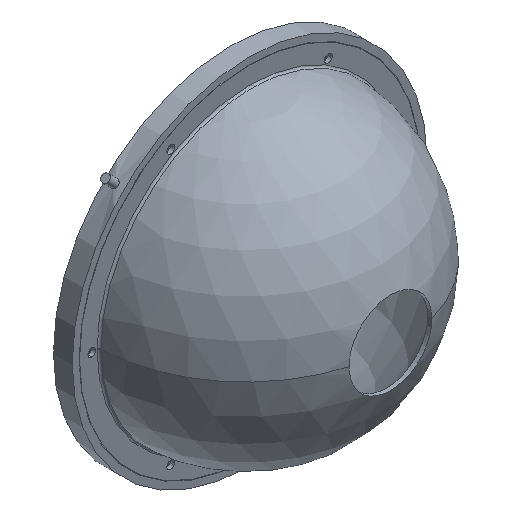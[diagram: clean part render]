
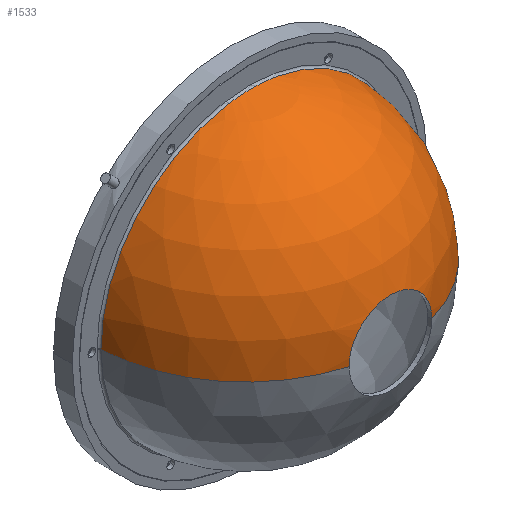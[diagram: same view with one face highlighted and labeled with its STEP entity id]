
A CAD part, isometric view. The second image highlights one B-rep face of the part: STEP entity #1533.
In plain terms, the highlighted spherical face has radius 76.441 mm.
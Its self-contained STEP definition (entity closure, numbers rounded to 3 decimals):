
#40 = CIRCLE ( 'NONE', #1221, 76.441 ) ;
#72 = FACE_OUTER_BOUND ( 'NONE', #1466, .T. ) ;
#127 = SPHERICAL_SURFACE ( 'NONE', #1112, 76.441 ) ;
#139 = ORIENTED_EDGE ( 'NONE', *, *, #205, .T. ) ;
#161 = ORIENTED_EDGE ( 'NONE', *, *, #1825, .F. ) ;
#205 = EDGE_CURVE ( 'NONE', #965, #1214, #278, .T. ) ;
#217 = VERTEX_POINT ( 'NONE', #861 ) ;
#278 = CIRCLE ( 'NONE', #1923, 21. ) ;
#357 = DIRECTION ( 'NONE',  ( 1., 0., 0. ) ) ;
#399 = DIRECTION ( 'NONE',  ( 0., 1., 0. ) ) ;
#484 = DIRECTION ( 'NONE',  ( -1., 0., 0. ) ) ;
#672 = VERTEX_POINT ( 'NONE', #966 ) ;
#712 = CIRCLE ( 'NONE', #1798, 76.384 ) ;
#810 = CARTESIAN_POINT ( 'NONE',  ( 0., -7.5, 0. ) ) ;
#837 = DIRECTION ( 'NONE',  ( 1., 0., 0. ) ) ;
#855 = CIRCLE ( 'NONE', #914, 76.441 ) ;
#861 = CARTESIAN_POINT ( 'NONE',  ( 76.384, -10.461, 0. ) ) ;
#914 = AXIS2_PLACEMENT_3D ( 'NONE', #1702, #971, #484 ) ;
#965 = VERTEX_POINT ( 'NONE', #1450 ) ;
#966 = CARTESIAN_POINT ( 'NONE',  ( -76.384, -10.461, 0. ) ) ;
#971 = DIRECTION ( 'NONE',  ( 0., 0., -1. ) ) ;
#972 = CARTESIAN_POINT ( 'NONE',  ( 0., -81., 0. ) ) ;
#998 = DIRECTION ( 'NONE',  ( 0., 0., -1. ) ) ;
#1026 = DIRECTION ( 'NONE',  ( -1., 0., 0. ) ) ;
#1112 = AXIS2_PLACEMENT_3D ( 'NONE', #1603, #998, #837 ) ;
#1214 = VERTEX_POINT ( 'NONE', #1967 ) ;
#1221 = AXIS2_PLACEMENT_3D ( 'NONE', #810, #1880, #357 ) ;
#1325 = DIRECTION ( 'NONE',  ( -1., 0., 0. ) ) ;
#1372 = EDGE_CURVE ( 'NONE', #672, #217, #712, .T. ) ;
#1450 = CARTESIAN_POINT ( 'NONE',  ( -21., -81., 0. ) ) ;
#1461 = CARTESIAN_POINT ( 'NONE',  ( 0., -10.461, 0. ) ) ;
#1466 = EDGE_LOOP ( 'NONE', ( #161, #139, #1979, #1898 ) ) ;
#1533 = ADVANCED_FACE ( 'NONE', ( #72 ), #127, .T. ) ;
#1603 = CARTESIAN_POINT ( 'NONE',  ( 0., -7.5, 0. ) ) ;
#1639 = DIRECTION ( 'NONE',  ( 0., 1., 0. ) ) ;
#1702 = CARTESIAN_POINT ( 'NONE',  ( 0., -7.5, 0. ) ) ;
#1798 = AXIS2_PLACEMENT_3D ( 'NONE', #1461, #399, #1325 ) ;
#1825 = EDGE_CURVE ( 'NONE', #965, #672, #855, .T. ) ;
#1880 = DIRECTION ( 'NONE',  ( 0., 0., 1. ) ) ;
#1898 = ORIENTED_EDGE ( 'NONE', *, *, #1372, .F. ) ;
#1911 = EDGE_CURVE ( 'NONE', #1214, #217, #40, .T. ) ;
#1923 = AXIS2_PLACEMENT_3D ( 'NONE', #972, #1639, #1026 ) ;
#1967 = CARTESIAN_POINT ( 'NONE',  ( 21., -81., 0. ) ) ;
#1979 = ORIENTED_EDGE ( 'NONE', *, *, #1911, .T. ) ;
